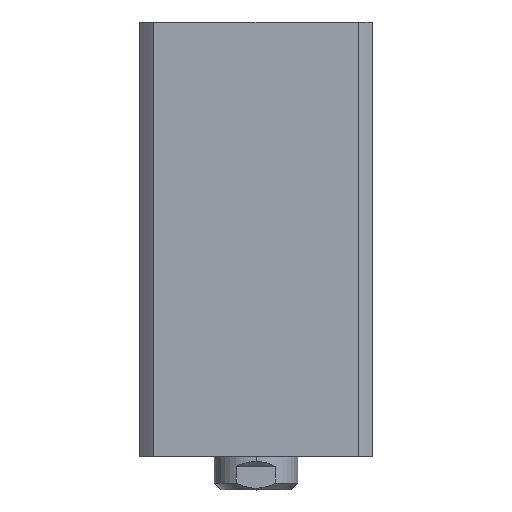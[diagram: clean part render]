
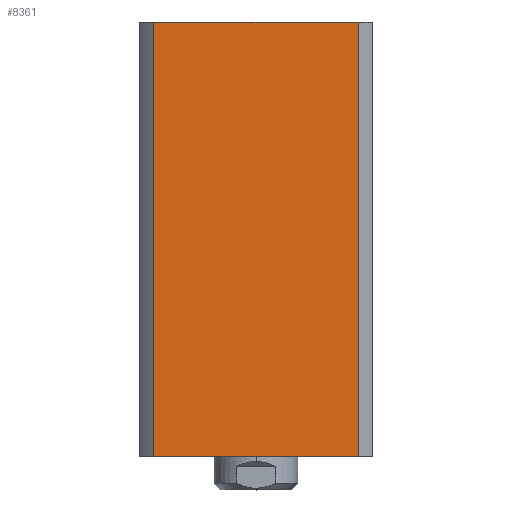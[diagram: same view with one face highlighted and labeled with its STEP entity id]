
A CAD part, top view. The second image highlights one B-rep face of the part: STEP entity #8361.
In plain terms, the highlighted planar face has unit normal (0, 0, 1) as drawn and (0, -1, 0) by its records, which use the part's own axes.
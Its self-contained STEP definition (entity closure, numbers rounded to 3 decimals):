
#115 = EDGE_LOOP ( 'NONE', ( #468, #4371, #8027, #7171 ) ) ;
#230 = EDGE_CURVE ( 'NONE', #3327, #7994, #4589, .T. ) ;
#429 = VECTOR ( 'NONE', #9701, 1000. ) ;
#438 = VECTOR ( 'NONE', #2718, 1000. ) ;
#468 = ORIENTED_EDGE ( 'NONE', *, *, #9489, .F. ) ;
#1077 = EDGE_CURVE ( 'NONE', #4023, #3327, #4836, .T. ) ;
#1575 = CARTESIAN_POINT ( 'NONE',  ( -30.615, -35., 0. ) ) ;
#2014 = DIRECTION ( 'NONE',  ( 0., 1., 0. ) ) ;
#2131 = EDGE_CURVE ( 'NONE', #4023, #9836, #8607, .T. ) ;
#2233 = VECTOR ( 'NONE', #8707, 1000. ) ;
#2718 = DIRECTION ( 'NONE',  ( 1., 0., 0. ) ) ;
#3327 = VERTEX_POINT ( 'NONE', #8824 ) ;
#4023 = VERTEX_POINT ( 'NONE', #1575 ) ;
#4048 = CARTESIAN_POINT ( 'NONE',  ( 30.615, -35., 300. ) ) ;
#4371 = ORIENTED_EDGE ( 'NONE', *, *, #230, .F. ) ;
#4457 = VECTOR ( 'NONE', #7588, 1000. ) ;
#4589 = LINE ( 'NONE', #9049, #438 ) ;
#4836 = LINE ( 'NONE', #8931, #429 ) ;
#5623 = CARTESIAN_POINT ( 'NONE',  ( 30.615, -35., 130. ) ) ;
#5910 = CARTESIAN_POINT ( 'NONE',  ( -35., -35., 130. ) ) ;
#5940 = CARTESIAN_POINT ( 'NONE',  ( 30.615, -35., 0. ) ) ;
#6866 = LINE ( 'NONE', #4048, #2233 ) ;
#7171 = ORIENTED_EDGE ( 'NONE', *, *, #2131, .T. ) ;
#7432 = AXIS2_PLACEMENT_3D ( 'NONE', #5910, #2014, #7469 ) ;
#7469 = DIRECTION ( 'NONE',  ( 0., 0., 1. ) ) ;
#7588 = DIRECTION ( 'NONE',  ( 1., 0., 0. ) ) ;
#7994 = VERTEX_POINT ( 'NONE', #5623 ) ;
#8027 = ORIENTED_EDGE ( 'NONE', *, *, #1077, .F. ) ;
#8361 = ADVANCED_FACE ( 'NONE', ( #8938 ), #9001, .F. ) ;
#8607 = LINE ( 'NONE', #9992, #4457 ) ;
#8707 = DIRECTION ( 'NONE',  ( 0., 0., -1. ) ) ;
#8824 = CARTESIAN_POINT ( 'NONE',  ( -30.615, -35., 130. ) ) ;
#8931 = CARTESIAN_POINT ( 'NONE',  ( -30.615, -35., 300. ) ) ;
#8938 = FACE_OUTER_BOUND ( 'NONE', #115, .T. ) ;
#9001 = PLANE ( 'NONE',  #7432 ) ;
#9049 = CARTESIAN_POINT ( 'NONE',  ( -35., -35., 130. ) ) ;
#9489 = EDGE_CURVE ( 'NONE', #7994, #9836, #6866, .T. ) ;
#9701 = DIRECTION ( 'NONE',  ( 0., 0., 1. ) ) ;
#9836 = VERTEX_POINT ( 'NONE', #5940 ) ;
#9992 = CARTESIAN_POINT ( 'NONE',  ( -35., -35., 0. ) ) ;
